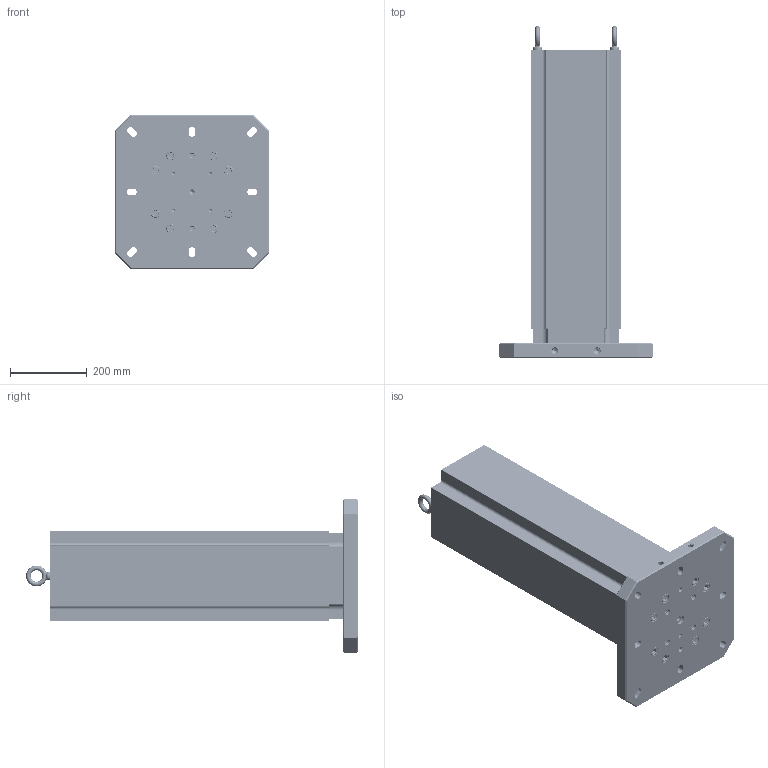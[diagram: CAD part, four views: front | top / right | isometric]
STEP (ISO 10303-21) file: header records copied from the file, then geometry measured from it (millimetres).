
FILE_DESCRIPTION (( 'STEP AP214' ), '1' );
FILE_NAME ('MTA-4004U-800.STEP', '2025-06-24T06:23:53', ( '' ), ( '' ), 'SwSTEP 2.0', 'SolidWorks 2024', '' );
FILE_SCHEMA (( 'AUTOMOTIVE_DESIGN' ));
Length unit declared in the file: millimetre
Products named in the file (8): 156x2.OR  -  O-RING, 156mm ID X 2mm THK, BUNA-N, 70A; MT-4762A_MT-4600A; HW.76452_dev_91290A835; RL96-14TC; M12X24MM.EB (McM 3040T15)_3040T15; RL96-4004BUA; HW.76172; MTA-4004U-800
Assembly tree (18 placements, depth 2):
  MTA-4004U-800
    RL96-4004BUA
    MT-4762A_MT-4600A
    M12X24MM.EB (McM 3040T15)_3040T15  x2
    156x2.OR  -  O-RING, 156mm ID X 2mm THK, BUNA-N, 70A
    HW.76452_dev_91290A835  x8
    RL96-14TC
    HW.76172  x4
Bounding box: 400 x 862.9 x 400 mm (x, y, z)
Volume: 30797661.4 mm3; surface area: 1690825.2 mm2
Topology: 18 solids, 18 shells, 2062 faces, 5522 edges, 3522 vertices
Faces by surface type: cylinder 1388, plane 318, cone 284, bspline 42, torus 30
Entity records: 33382 total; most frequent: CARTESIAN_POINT 13908, ORIENTED_EDGE 4162, DIRECTION 3945, EDGE_CURVE 2081, AXIS2_PLACEMENT_3D 1482, VERTEX_POINT 1327, VECTOR 981, LINE 981
